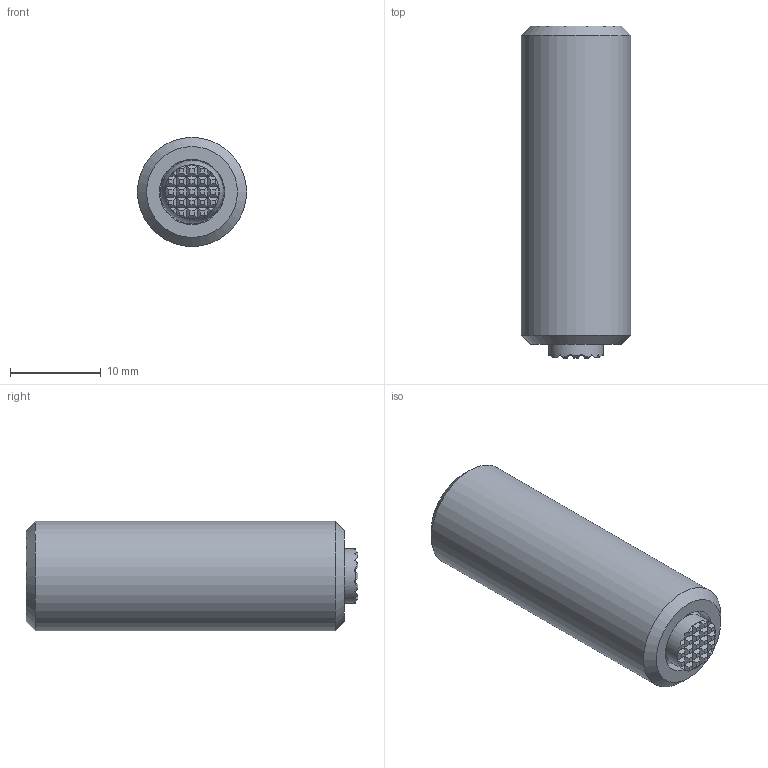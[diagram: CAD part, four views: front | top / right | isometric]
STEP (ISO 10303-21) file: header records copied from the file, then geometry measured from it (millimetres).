
FILE_DESCRIPTION( ( 'STEP AP203' ), '1' );
FILE_NAME( 'C:/Temp/Ganter_Step_05_03_2020/data/3_2/gn_709_8/gn_709_8r/Clamping pad GN 709.8-M12-35-R (0).stp', '2020-03-13T05:38:02', ( 'License CC BY-ND 4.0' ), ( 'CADENAS' ), ' ', 'PARTsolutions', ' ' );
FILE_SCHEMA( ( 'CONFIG_CONTROL_DESIGN' ) );
Length unit declared in the file: millimetre
Products named in the file (3): Clamping pad GN 709.8-M12-35-R (0); _Pendelelement GN 709.8-M12-35-R-1; _Pendelelement GN 709.8-M12-35-R-2
Assembly tree (2 placements, depth 2):
  Clamping pad GN 709.8-M12-35-R (0)
    _Pendelelement GN 709.8-M12-35-R-1
    _Pendelelement GN 709.8-M12-35-R-2
Bounding box: 12 x 36.5 x 12 mm (x, y, z)
Volume: 3714.4 mm3; surface area: 1927.3 mm2
Topology: 2 solids, 2 shells, 162 faces, 347 edges, 190 vertices
Faces by surface type: plane 155, cone 3, cylinder 3, sphere 1
Full cylindrical faces by diameter (mm): 6 x1, 7.18 x1, 12 x1
Entity records: 4242 total; most frequent: DIRECTION 732, CARTESIAN_POINT 692, ORIENTED_EDGE 676, EDGE_CURVE 338, LINE 274, VECTOR 274, AXIS2_PLACEMENT_3D 229, VERTEX_POINT 189
